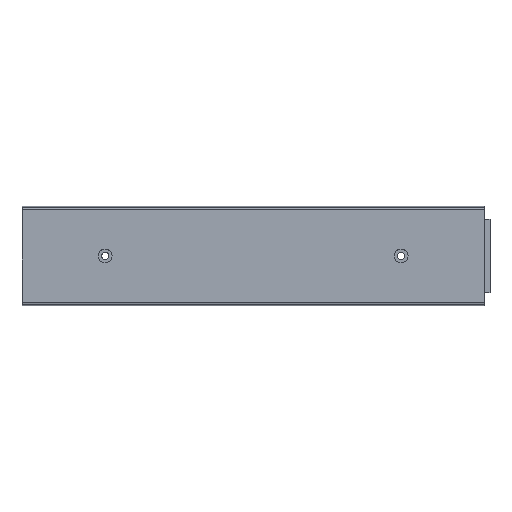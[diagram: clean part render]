
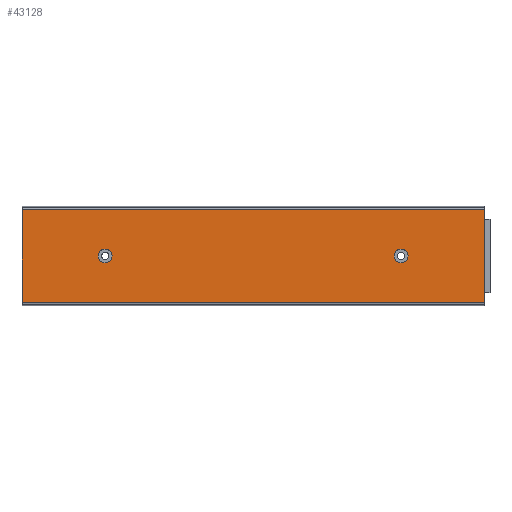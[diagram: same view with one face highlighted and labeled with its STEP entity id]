
A CAD part, top view. The second image highlights one B-rep face of the part: STEP entity #43128.
In plain terms, the highlighted planar face has unit normal (0, 0, 1).
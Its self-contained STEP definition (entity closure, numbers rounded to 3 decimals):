
#56=CIRCLE('',#44809,4.25);
#57=CIRCLE('',#44811,4.25);
#2061=PLANE('',#44905);
#3560=LINE('',#55578,#6893);
#3562=LINE('',#55587,#6895);
#3563=LINE('',#55589,#6896);
#3564=LINE('',#55591,#6897);
#6893=VECTOR('',#47197,1000.);
#6895=VECTOR('',#47205,1000.);
#6896=VECTOR('',#47206,1000.);
#6897=VECTOR('',#47207,1000.);
#10947=ORIENTED_EDGE('',*,*,#19652,.T.);
#10948=ORIENTED_EDGE('',*,*,#19651,.T.);
#10949=ORIENTED_EDGE('',*,*,#19890,.T.);
#10950=ORIENTED_EDGE('',*,*,#19886,.F.);
#10951=ORIENTED_EDGE('',*,*,#19891,.T.);
#10952=ORIENTED_EDGE('',*,*,#19892,.F.);
#19651=EDGE_CURVE('',#24242,#24242,#56,.T.);
#19652=EDGE_CURVE('',#24243,#24243,#57,.T.);
#19886=EDGE_CURVE('',#24393,#24394,#3560,.F.);
#19890=EDGE_CURVE('',#24397,#24394,#3562,.T.);
#19891=EDGE_CURVE('',#24393,#24398,#3563,.T.);
#19892=EDGE_CURVE('',#24397,#24398,#3564,.T.);
#24242=VERTEX_POINT('',#54231);
#24243=VERTEX_POINT('',#54234);
#24393=VERTEX_POINT('',#55579);
#24394=VERTEX_POINT('',#55580);
#24397=VERTEX_POINT('',#55588);
#24398=VERTEX_POINT('',#55590);
#27220=EDGE_LOOP('',(#10947));
#27221=EDGE_LOOP('',(#10948));
#27222=EDGE_LOOP('',(#10949,#10950,#10951,#10952));
#29061=FACE_BOUND('',#27220,.T.);
#29062=FACE_BOUND('',#27221,.T.);
#29063=FACE_BOUND('',#27222,.T.);
#43128=ADVANCED_FACE('',(#29061,#29062,#29063),#2061,.T.);
#44809=AXIS2_PLACEMENT_3D('',#54230,#46820,#46821);
#44811=AXIS2_PLACEMENT_3D('',#54233,#46824,#46825);
#44905=AXIS2_PLACEMENT_3D('',#55586,#47203,#47204);
#46820=DIRECTION('',(0.,0.,-1.));
#46821=DIRECTION('',(0.,-1.,0.));
#46824=DIRECTION('',(0.,0.,-1.));
#46825=DIRECTION('',(0.,-1.,0.));
#47197=DIRECTION('',(-1.,0.,0.));
#47203=DIRECTION('',(0.,0.,1.));
#47204=DIRECTION('',(1.,0.,0.));
#47205=DIRECTION('',(0.,1.,0.));
#47206=DIRECTION('',(0.,-1.,0.));
#47207=DIRECTION('',(-1.,0.,0.));
#54230=CARTESIAN_POINT('',(-91.,0.,8.6));
#54231=CARTESIAN_POINT('',(-91.,-4.25,8.6));
#54233=CARTESIAN_POINT('',(91.,0.,8.6));
#54234=CARTESIAN_POINT('',(91.,-4.25,8.6));
#55578=CARTESIAN_POINT('',(294.342,28.5,8.6));
#55579=CARTESIAN_POINT('',(-142.15,28.5,8.6));
#55580=CARTESIAN_POINT('',(142.15,28.5,8.6));
#55586=CARTESIAN_POINT('',(0.,0.,8.6));
#55587=CARTESIAN_POINT('',(142.15,-30.5,8.6));
#55588=CARTESIAN_POINT('',(142.15,-28.5,8.6));
#55589=CARTESIAN_POINT('',(-142.15,30.5,8.6));
#55590=CARTESIAN_POINT('',(-142.15,-28.5,8.6));
#55591=CARTESIAN_POINT('',(294.342,-28.5,8.6));
